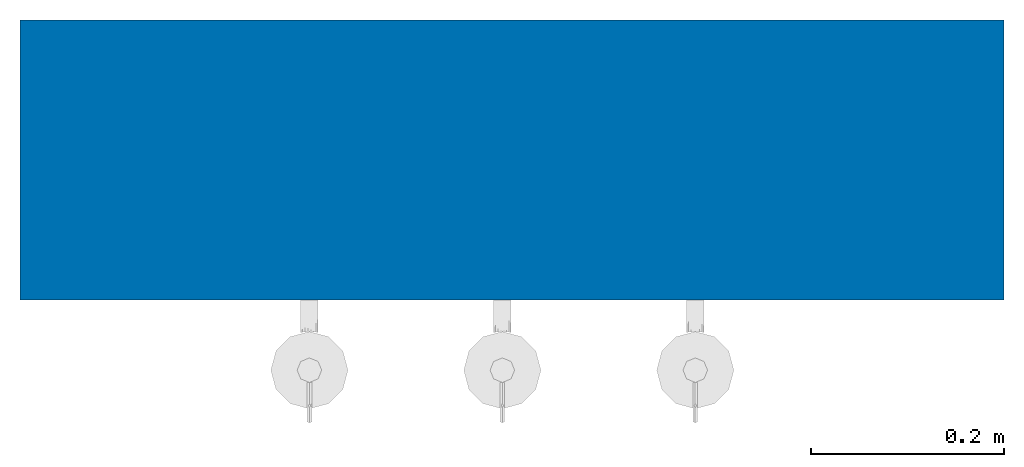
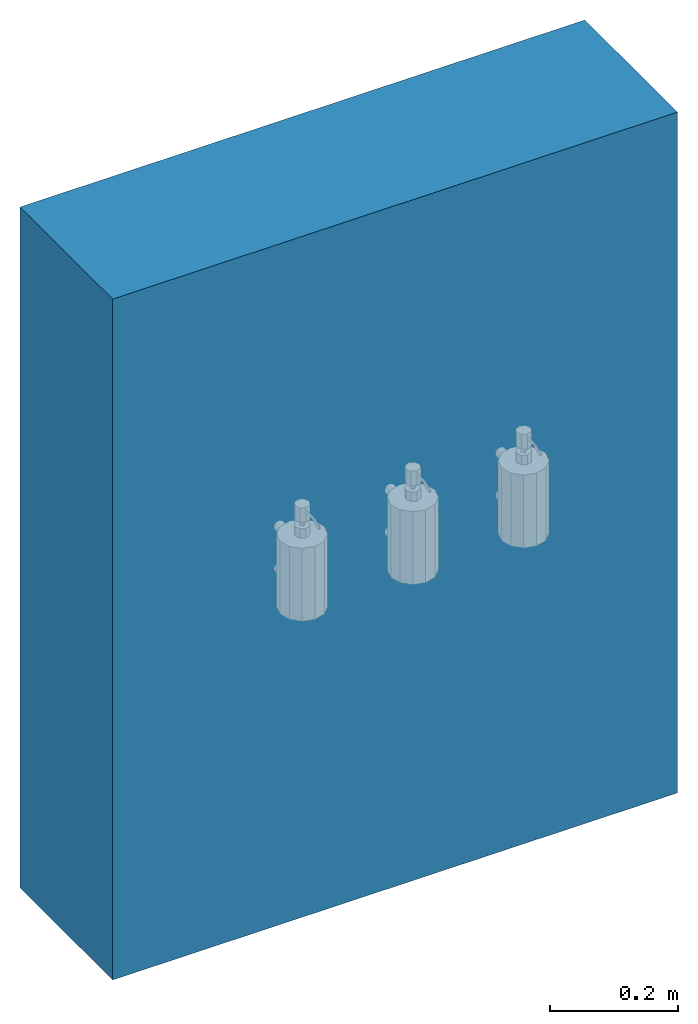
# One storey, part 1 of 4: 1 wall.
"""IFC2X3 building model written with IfcOpenShell, lengths in millimetres."""

from ifc_helpers import new_model, entity, si_unit, converted_unit, derived_unit, direction, frame, frame_2d, origin, place, context, subcontext, project, spatial, rectangle, extrude, material, layer, layer_set, layer_usage, type_object, element, save


model = new_model("IFC2X3")

# Units and contexts
model_context = context("Model", 3, precision=0.01, world=origin(), true_north=direction((6.12303176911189e-17, 1.0)))
body_context = subcontext(model_context, "Body", "Model", "MODEL_VIEW")
ifc_project = project(units=[si_unit("LENGTHUNIT", "METRE", prefix="MILLI"), si_unit("AREAUNIT", "SQUARE_METRE"), si_unit("VOLUMEUNIT", "CUBIC_METRE"), converted_unit("PLANEANGLEUNIT", "DEGREE", entity("IfcRatioMeasure", 0.0174532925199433), si_unit("PLANEANGLEUNIT", "RADIAN"), dimensions=[0, 0, 0, 0, 0, 0, 0]), si_unit("MASSUNIT", "GRAM", prefix="KILO"), derived_unit("MASSDENSITYUNIT", [(si_unit("MASSUNIT", "GRAM", prefix="KILO"), 1), (si_unit("LENGTHUNIT", "METRE"), -3)]), si_unit("TIMEUNIT", "SECOND"), si_unit("FREQUENCYUNIT", "HERTZ"), si_unit("THERMODYNAMICTEMPERATUREUNIT", "DEGREE_CELSIUS"), derived_unit("THERMALTRANSMITTANCEUNIT", [(si_unit("MASSUNIT", "GRAM", prefix="KILO"), 1), (si_unit("THERMODYNAMICTEMPERATUREUNIT", "KELVIN"), -1), (si_unit("TIMEUNIT", "SECOND"), -3)]), derived_unit("VOLUMETRICFLOWRATEUNIT", [(si_unit("LENGTHUNIT", "METRE"), 3), (si_unit("TIMEUNIT", "SECOND"), -1)]), si_unit("ELECTRICCURRENTUNIT", "AMPERE"), si_unit("ELECTRICVOLTAGEUNIT", "VOLT"), si_unit("POWERUNIT", "WATT"), si_unit("FORCEUNIT", "NEWTON", prefix="KILO"), si_unit("ILLUMINANCEUNIT", "LUX"), si_unit("LUMINOUSFLUXUNIT", "LUMEN"), si_unit("LUMINOUSINTENSITYUNIT", "CANDELA"), derived_unit("USERDEFINED", [(si_unit("MASSUNIT", "GRAM", prefix="KILO"), -1), (si_unit("LENGTHUNIT", "METRE"), -2), (si_unit("TIMEUNIT", "SECOND"), 3), (si_unit("LUMINOUSFLUXUNIT", "LUMEN"), 1)]), derived_unit("LINEARVELOCITYUNIT", [(si_unit("LENGTHUNIT", "METRE"), 1), (si_unit("TIMEUNIT", "SECOND"), -1)]), si_unit("PRESSUREUNIT", "PASCAL"), derived_unit("USERDEFINED", [(si_unit("LENGTHUNIT", "METRE"), -2), (si_unit("MASSUNIT", "GRAM", prefix="KILO"), 1), (si_unit("TIMEUNIT", "SECOND"), -2)])], contexts=[model_context])

# Site, building, storey
site_placement = place(None, origin())
site = spatial("IfcSite", under=ifc_project, at=site_placement, Name="Default", CompositionType="ELEMENT")
building_placement = place(site_placement, origin())
building = spatial("IfcBuilding", under=site, at=building_placement, CompositionType="ELEMENT")
storey_placement = place(building_placement, origin())
storey = spatial("IfcBuildingStorey", under=building, at=storey_placement, Name="Level 0", CompositionType="ELEMENT", Elevation=0.0)

# Wall
ifc_material_1 = material(Name="Brick, Common")
ifc_layer_1 = layer(ifc_material_1, 102.5)
ifc_material_2 = material(Name="Fiberglass Batt")
ifc_layer_2 = layer(ifc_material_2, 75.0)
ifc_material_3 = material(Name="Concrete Masonry Units _Low Density")
ifc_layer_3 = layer(ifc_material_3, 100.0)
ifc_material_4 = material(Name="Plaster")
ifc_layer_4 = layer(ifc_material_4, 12.5)
ifc_layer_set = layer_set([ifc_layer_1, ifc_layer_2, ifc_layer_3, ifc_layer_4], Name="Basic Wall:Wall-Ext_102Bwk-75Ins-100LBlk-12P")
ifc_layer_usage = layer_usage(ifc_layer_set, "AXIS2", "NEGATIVE", 145.0)
wall_type = type_object("IfcWallType", Name="Basic Wall:Wall-Ext_102Bwk-75Ins-100LBlk-12P", PredefinedType="STANDARD", material=ifc_layer_set)
wall_placement = place(storey_placement, frame((-7075.07012140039, 418.186319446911, 0.0)))
element("IfcWallStandardCase", 1, at=wall_placement, inside=storey, type_object=wall_type, material=ifc_layer_usage, Name="Basic Wall:Wall-Ext_102Bwk-75Ins-100LBlk-12P", ObjectType="Basic Wall:Wall-Ext_102Bwk-75Ins-100LBlk-12P", context=body_context, shape_type="SweptSolid", body=[
    extrude(rectangle(XDim=1020.0, YDim=290.0, at=frame_2d((510.000000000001, 2.8421709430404e-14), x_axis=(-1.0, 0.0))), origin(), (0.0, 0.0, 1.0), 1300.0),
])

save(model, "model.ifc")
